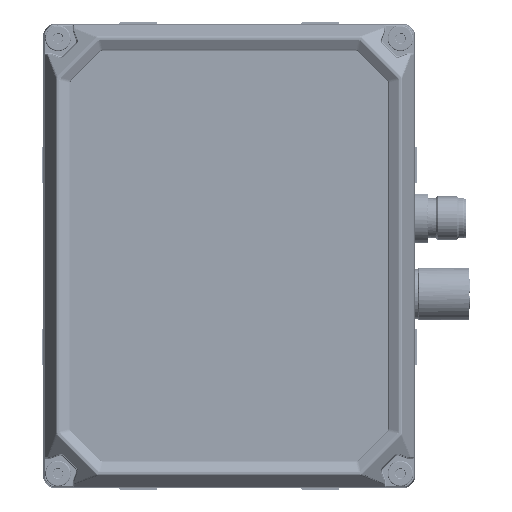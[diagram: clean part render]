
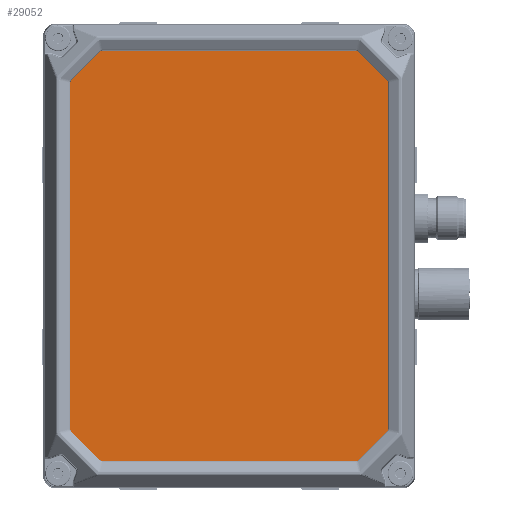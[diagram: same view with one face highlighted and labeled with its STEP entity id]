
A CAD part, top view. The second image highlights one B-rep face of the part: STEP entity #29052.
In plain terms, the highlighted planar face has unit normal (0, 0, 1).
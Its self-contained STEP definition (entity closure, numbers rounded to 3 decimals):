
#29052=ADVANCED_FACE('',(#36590),#34905,.F.);
#34905=PLANE('',#114877);
#36590=FACE_OUTER_BOUND('',#42150,.T.);
#42150=EDGE_LOOP('',(#56807,#56808,#56809,#56810,#56811,#56812,#56813,#56814,
#56815,#56816,#56817,#56818,#56819,#56820,#56821,#56822));
#48423=ELLIPSE('',#114869,1.001,1.);
#48424=ELLIPSE('',#114870,1.001,1.);
#48425=ELLIPSE('',#114871,1.001,1.);
#48426=ELLIPSE('',#114872,1.001,1.);
#48427=ELLIPSE('',#114873,1.001,1.);
#48428=ELLIPSE('',#114874,1.001,1.);
#48429=ELLIPSE('',#114875,1.001,1.);
#48430=ELLIPSE('',#114876,1.001,1.);
#56807=ORIENTED_EDGE('',*,*,#91384,.T.);
#56808=ORIENTED_EDGE('',*,*,#91385,.T.);
#56809=ORIENTED_EDGE('',*,*,#91386,.T.);
#56810=ORIENTED_EDGE('',*,*,#91387,.T.);
#56811=ORIENTED_EDGE('',*,*,#91388,.T.);
#56812=ORIENTED_EDGE('',*,*,#91389,.T.);
#56813=ORIENTED_EDGE('',*,*,#91390,.T.);
#56814=ORIENTED_EDGE('',*,*,#91391,.T.);
#56815=ORIENTED_EDGE('',*,*,#91392,.T.);
#56816=ORIENTED_EDGE('',*,*,#91393,.T.);
#56817=ORIENTED_EDGE('',*,*,#91394,.T.);
#56818=ORIENTED_EDGE('',*,*,#91395,.T.);
#56819=ORIENTED_EDGE('',*,*,#91396,.T.);
#56820=ORIENTED_EDGE('',*,*,#91397,.T.);
#56821=ORIENTED_EDGE('',*,*,#91398,.T.);
#56822=ORIENTED_EDGE('',*,*,#91399,.T.);
#83453=VERTEX_POINT('',#149183);
#83454=VERTEX_POINT('',#149184);
#83455=VERTEX_POINT('',#149186);
#83456=VERTEX_POINT('',#149188);
#83457=VERTEX_POINT('',#149190);
#83458=VERTEX_POINT('',#149192);
#83459=VERTEX_POINT('',#149194);
#83460=VERTEX_POINT('',#149196);
#83461=VERTEX_POINT('',#149198);
#83462=VERTEX_POINT('',#149200);
#83463=VERTEX_POINT('',#149202);
#83464=VERTEX_POINT('',#149204);
#83465=VERTEX_POINT('',#149206);
#83466=VERTEX_POINT('',#149208);
#83467=VERTEX_POINT('',#149210);
#83468=VERTEX_POINT('',#149212);
#91384=EDGE_CURVE('',#83453,#83454,#104691,.T.);
#91385=EDGE_CURVE('',#83454,#83455,#48423,.T.);
#91386=EDGE_CURVE('',#83455,#83456,#104692,.T.);
#91387=EDGE_CURVE('',#83456,#83457,#48424,.T.);
#91388=EDGE_CURVE('',#83457,#83458,#104693,.T.);
#91389=EDGE_CURVE('',#83458,#83459,#48425,.T.);
#91390=EDGE_CURVE('',#83459,#83460,#104694,.T.);
#91391=EDGE_CURVE('',#83460,#83461,#48426,.T.);
#91392=EDGE_CURVE('',#83461,#83462,#104695,.T.);
#91393=EDGE_CURVE('',#83462,#83463,#48427,.T.);
#91394=EDGE_CURVE('',#83463,#83464,#104696,.T.);
#91395=EDGE_CURVE('',#83464,#83465,#48428,.T.);
#91396=EDGE_CURVE('',#83465,#83466,#104697,.T.);
#91397=EDGE_CURVE('',#83466,#83467,#48429,.T.);
#91398=EDGE_CURVE('',#83467,#83468,#104698,.T.);
#91399=EDGE_CURVE('',#83468,#83453,#48430,.T.);
#104691=LINE('',#149182,#109741);
#104692=LINE('',#149187,#109742);
#104693=LINE('',#149191,#109743);
#104694=LINE('',#149195,#109744);
#104695=LINE('',#149199,#109745);
#104696=LINE('',#149203,#109746);
#104697=LINE('',#149207,#109747);
#104698=LINE('',#149211,#109748);
#109741=VECTOR('',#124602,1.);
#109742=VECTOR('',#124605,1.);
#109743=VECTOR('',#124608,1.);
#109744=VECTOR('',#124611,1.);
#109745=VECTOR('',#124614,1.);
#109746=VECTOR('',#124617,1.);
#109747=VECTOR('',#124620,1.);
#109748=VECTOR('',#124623,1.);
#114869=AXIS2_PLACEMENT_3D('',#149185,#124603,#124604);
#114870=AXIS2_PLACEMENT_3D('',#149189,#124606,#124607);
#114871=AXIS2_PLACEMENT_3D('',#149193,#124609,#124610);
#114872=AXIS2_PLACEMENT_3D('',#149197,#124612,#124613);
#114873=AXIS2_PLACEMENT_3D('',#149201,#124615,#124616);
#114874=AXIS2_PLACEMENT_3D('',#149205,#124618,#124619);
#114875=AXIS2_PLACEMENT_3D('',#149209,#124621,#124622);
#114876=AXIS2_PLACEMENT_3D('',#149213,#124624,#124625);
#114877=AXIS2_PLACEMENT_3D('',#149214,#124626,#124627);
#124602=DIRECTION('',(0.707,0.707,0.));
#124603=DIRECTION('',(0.,0.,1.));
#124604=DIRECTION('',(0.924,-0.383,0.));
#124605=DIRECTION('',(0.,1.,0.));
#124606=DIRECTION('',(0.,0.,1.));
#124607=DIRECTION('',(0.924,0.383,0.));
#124608=DIRECTION('',(-0.707,0.707,0.));
#124609=DIRECTION('',(0.,0.,1.));
#124610=DIRECTION('',(0.383,0.924,0.));
#124611=DIRECTION('',(-1.,0.,0.));
#124612=DIRECTION('',(0.,0.,1.));
#124613=DIRECTION('',(-0.383,0.924,0.));
#124614=DIRECTION('',(-0.707,-0.707,0.));
#124615=DIRECTION('',(0.,0.,1.));
#124616=DIRECTION('',(-0.924,0.383,0.));
#124617=DIRECTION('',(0.,-1.,0.));
#124618=DIRECTION('',(0.,0.,1.));
#124619=DIRECTION('',(-0.924,-0.383,0.));
#124620=DIRECTION('',(0.707,-0.707,0.));
#124621=DIRECTION('',(0.,0.,1.));
#124622=DIRECTION('',(-0.383,-0.924,0.));
#124623=DIRECTION('',(1.,0.,0.));
#124624=DIRECTION('',(0.,0.,1.));
#124625=DIRECTION('',(0.383,-0.924,0.));
#124626=DIRECTION('',(0.,0.,-1.));
#124627=DIRECTION('',(-1.,0.,0.));
#149182=CARTESIAN_POINT('',(42.8,-46.96,70.5));
#149183=CARTESIAN_POINT('',(34.753,-55.007,70.5));
#149184=CARTESIAN_POINT('',(42.507,-47.253,70.5));
#149185=CARTESIAN_POINT('',(41.799,-46.546,70.5));
#149186=CARTESIAN_POINT('',(42.8,-46.546,70.5));
#149187=CARTESIAN_POINT('',(42.8,46.96,70.5));
#149188=CARTESIAN_POINT('',(42.8,46.546,70.5));
#149189=CARTESIAN_POINT('',(41.799,46.546,70.5));
#149190=CARTESIAN_POINT('',(42.507,47.253,70.5));
#149191=CARTESIAN_POINT('',(34.46,55.3,70.5));
#149192=CARTESIAN_POINT('',(34.753,55.007,70.5));
#149193=CARTESIAN_POINT('',(34.046,54.299,70.5));
#149194=CARTESIAN_POINT('',(34.046,55.3,70.5));
#149195=CARTESIAN_POINT('',(-34.46,55.3,70.5));
#149196=CARTESIAN_POINT('',(-34.046,55.3,70.5));
#149197=CARTESIAN_POINT('',(-34.046,54.299,70.5));
#149198=CARTESIAN_POINT('',(-34.753,55.007,70.5));
#149199=CARTESIAN_POINT('',(-42.8,46.96,70.5));
#149200=CARTESIAN_POINT('',(-42.507,47.253,70.5));
#149201=CARTESIAN_POINT('',(-41.799,46.546,70.5));
#149202=CARTESIAN_POINT('',(-42.8,46.546,70.5));
#149203=CARTESIAN_POINT('',(-42.8,-46.96,70.5));
#149204=CARTESIAN_POINT('',(-42.8,-46.546,70.5));
#149205=CARTESIAN_POINT('',(-41.799,-46.546,70.5));
#149206=CARTESIAN_POINT('',(-42.507,-47.253,70.5));
#149207=CARTESIAN_POINT('',(-34.46,-55.3,70.5));
#149208=CARTESIAN_POINT('',(-34.753,-55.007,70.5));
#149209=CARTESIAN_POINT('',(-34.046,-54.299,70.5));
#149210=CARTESIAN_POINT('',(-34.046,-55.3,70.5));
#149211=CARTESIAN_POINT('',(34.46,-55.3,70.5));
#149212=CARTESIAN_POINT('',(34.046,-55.3,70.5));
#149213=CARTESIAN_POINT('',(34.046,-54.299,70.5));
#149214=CARTESIAN_POINT('',(-42.285,46.747,70.5));
